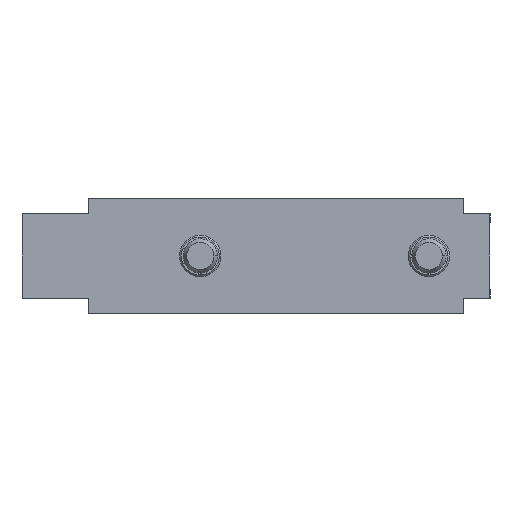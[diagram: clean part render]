
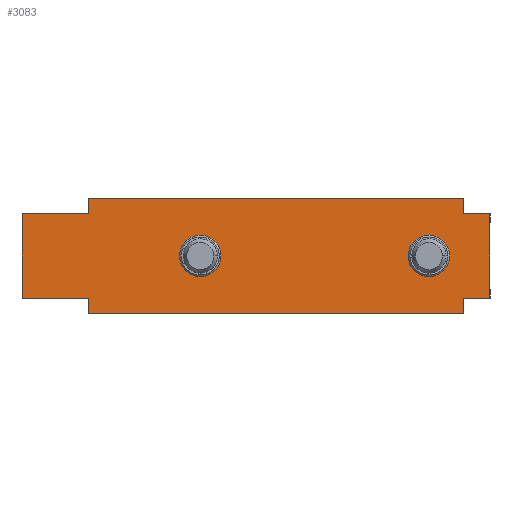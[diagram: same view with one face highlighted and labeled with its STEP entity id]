
A CAD part, left-side view. The second image highlights one B-rep face of the part: STEP entity #3083.
In plain terms, the highlighted planar face has unit normal (-1, 0, 0).
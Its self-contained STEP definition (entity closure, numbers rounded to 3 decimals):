
#25 = ORIENTED_EDGE ( 'NONE', *, *, #502, .T. ) ;
#26 = ORIENTED_EDGE ( 'NONE', *, *, #323, .F. ) ;
#27 = ORIENTED_EDGE ( 'NONE', *, *, #569, .F. ) ;
#33 = ORIENTED_EDGE ( 'NONE', *, *, #531, .F. ) ;
#34 = ORIENTED_EDGE ( 'NONE', *, *, #336, .T. ) ;
#35 = ORIENTED_EDGE ( 'NONE', *, *, #705, .F. ) ;
#36 = ORIENTED_EDGE ( 'NONE', *, *, #447, .F. ) ;
#60 = ORIENTED_EDGE ( 'NONE', *, *, #360, .F. ) ;
#61 = ORIENTED_EDGE ( 'NONE', *, *, #708, .F. ) ;
#62 = ORIENTED_EDGE ( 'NONE', *, *, #528, .F. ) ;
#64 = ORIENTED_EDGE ( 'NONE', *, *, #668, .T. ) ;
#65 = ORIENTED_EDGE ( 'NONE', *, *, #410, .F. ) ;
#66 = ORIENTED_EDGE ( 'NONE', *, *, #529, .F. ) ;
#67 = ORIENTED_EDGE ( 'NONE', *, *, #425, .F. ) ;
#68 = ORIENTED_EDGE ( 'NONE', *, *, #715, .F. ) ;
#77 = ORIENTED_EDGE ( 'NONE', *, *, #306, .F. ) ;
#88 = EDGE_LOOP ( 'NONE', ( #77, #61 ) ) ;
#101 = EDGE_LOOP ( 'NONE', ( #60, #65 ) ) ;
#106 = EDGE_LOOP ( 'NONE', ( #64, #62, #66, #68, #67, #27, #33, #34, #35, #36, #26, #25 ) ) ;
#298 = VERTEX_POINT ( 'NONE', #870 ) ;
#300 = AXIS2_PLACEMENT_3D ( 'NONE', #788, #786, #785 ) ;
#306 = EDGE_CURVE ( 'NONE', #1411, #1414, #2914, .T. ) ;
#317 = AXIS2_PLACEMENT_3D ( 'NONE', #1701, #1641, #1640 ) ;
#323 = EDGE_CURVE ( 'NONE', #1443, #298, #2930, .T. ) ;
#336 = EDGE_CURVE ( 'NONE', #1224, #1391, #2955, .T. ) ;
#360 = EDGE_CURVE ( 'NONE', #1399, #1419, #2998, .T. ) ;
#410 = EDGE_CURVE ( 'NONE', #1419, #1399, #1916, .T. ) ;
#421 = AXIS2_PLACEMENT_3D ( 'NONE', #1335, #1135, #1134 ) ;
#425 = EDGE_CURVE ( 'NONE', #1217, #1203, #1933, .T. ) ;
#447 = EDGE_CURVE ( 'NONE', #298, #1389, #1955, .T. ) ;
#502 = EDGE_CURVE ( 'NONE', #1443, #1459, #2001, .T. ) ;
#528 = EDGE_CURVE ( 'NONE', #1430, #1448, #963, .T. ) ;
#529 = EDGE_CURVE ( 'NONE', #1398, #1430, #975, .T. ) ;
#531 = EDGE_CURVE ( 'NONE', #1224, #1229, #979, .T. ) ;
#569 = EDGE_CURVE ( 'NONE', #1229, #1217, #993, .T. ) ;
#668 = EDGE_CURVE ( 'NONE', #1459, #1448, #1113, .T. ) ;
#678 = AXIS2_PLACEMENT_3D ( 'NONE', #872, #871, #868 ) ;
#700 = AXIS2_PLACEMENT_3D ( 'NONE', #936, #931, #934 ) ;
#705 = EDGE_CURVE ( 'NONE', #1389, #1391, #2408, .T. ) ;
#708 = EDGE_CURVE ( 'NONE', #1414, #1411, #2414, .T. ) ;
#715 = EDGE_CURVE ( 'NONE', #1203, #1398, #2415, .T. ) ;
#746 = CARTESIAN_POINT ( 'NONE',  ( 0.65, -4.9, -8. ) ) ;
#785 = DIRECTION ( 'NONE',  ( 0., 1., 0. ) ) ;
#786 = DIRECTION ( 'NONE',  ( -1., 0., 0. ) ) ;
#788 = CARTESIAN_POINT ( 'NONE',  ( 0.65, 0., 0. ) ) ;
#822 = DIRECTION ( 'NONE',  ( 0., 0., 1. ) ) ;
#841 = DIRECTION ( 'NONE',  ( 0., -1., 0. ) ) ;
#843 = CARTESIAN_POINT ( 'NONE',  ( 0.65, -8.55, 5.9 ) ) ;
#868 = DIRECTION ( 'NONE',  ( 0., 1., 0. ) ) ;
#870 = CARTESIAN_POINT ( 'NONE',  ( 0.65, -8.55, 5.9 ) ) ;
#871 = DIRECTION ( 'NONE',  ( -1., 0., 0. ) ) ;
#872 = CARTESIAN_POINT ( 'NONE',  ( 0.65, 32., 0. ) ) ;
#907 = DIRECTION ( 'NONE',  ( 0., 0., 1. ) ) ;
#920 = CARTESIAN_POINT ( 'NONE',  ( 0.65, -4.9, -8. ) ) ;
#931 = DIRECTION ( 'NONE',  ( -1., 0., 0. ) ) ;
#934 = DIRECTION ( 'NONE',  ( 0., 1., 0. ) ) ;
#936 = CARTESIAN_POINT ( 'NONE',  ( 0.65, 0., 0. ) ) ;
#963 = LINE ( 'NONE', #1790, #974 ) ;
#974 = VECTOR ( 'NONE', #1786, 1000. ) ;
#975 = LINE ( 'NONE', #1756, #976 ) ;
#976 = VECTOR ( 'NONE', #1751, 1000. ) ;
#979 = LINE ( 'NONE', #1773, #980 ) ;
#980 = VECTOR ( 'NONE', #1769, 1000. ) ;
#993 = LINE ( 'NONE', #1844, #1013 ) ;
#1013 = VECTOR ( 'NONE', #1644, 1000. ) ;
#1113 = LINE ( 'NONE', #1715, #1114 ) ;
#1114 = VECTOR ( 'NONE', #1714, 1000. ) ;
#1134 = DIRECTION ( 'NONE',  ( 0., -1., 0. ) ) ;
#1135 = DIRECTION ( 'NONE',  ( 1., 0., 0. ) ) ;
#1152 = PLANE ( 'NONE',  #421 ) ;
#1203 = VERTEX_POINT ( 'NONE', #2339 ) ;
#1217 = VERTEX_POINT ( 'NONE', #2301 ) ;
#1224 = VERTEX_POINT ( 'NONE', #2292 ) ;
#1229 = VERTEX_POINT ( 'NONE', #2295 ) ;
#1335 = CARTESIAN_POINT ( 'NONE',  ( 0.65, 47.6, -8. ) ) ;
#1389 = VERTEX_POINT ( 'NONE', #2200 ) ;
#1391 = VERTEX_POINT ( 'NONE', #2203 ) ;
#1398 = VERTEX_POINT ( 'NONE', #2194 ) ;
#1399 = VERTEX_POINT ( 'NONE', #2187 ) ;
#1411 = VERTEX_POINT ( 'NONE', #2178 ) ;
#1414 = VERTEX_POINT ( 'NONE', #2261 ) ;
#1419 = VERTEX_POINT ( 'NONE', #2131 ) ;
#1430 = VERTEX_POINT ( 'NONE', #2271 ) ;
#1443 = VERTEX_POINT ( 'NONE', #2286 ) ;
#1448 = VERTEX_POINT ( 'NONE', #2284 ) ;
#1459 = VERTEX_POINT ( 'NONE', #2359 ) ;
#1634 = DIRECTION ( 'NONE',  ( 0., 0., 1. ) ) ;
#1635 = CARTESIAN_POINT ( 'NONE',  ( 0.65, 56.95, 5.9 ) ) ;
#1640 = DIRECTION ( 'NONE',  ( 0., 1., 0. ) ) ;
#1641 = DIRECTION ( 'NONE',  ( -1., 0., 0. ) ) ;
#1644 = DIRECTION ( 'NONE',  ( 0., 0., 1. ) ) ;
#1651 = DIRECTION ( 'NONE',  ( 0., 1., 0. ) ) ;
#1652 = CARTESIAN_POINT ( 'NONE',  ( 0.65, -8.55, -5.9 ) ) ;
#1701 = CARTESIAN_POINT ( 'NONE',  ( 0.65, 32., 0. ) ) ;
#1714 = DIRECTION ( 'NONE',  ( 0., 1., 0. ) ) ;
#1715 = CARTESIAN_POINT ( 'NONE',  ( 0.65, 47.6, 8. ) ) ;
#1751 = DIRECTION ( 'NONE',  ( 0., -1., 0. ) ) ;
#1756 = CARTESIAN_POINT ( 'NONE',  ( 0.65, 47.6, 5.9 ) ) ;
#1769 = DIRECTION ( 'NONE',  ( 0., 1., 0. ) ) ;
#1773 = CARTESIAN_POINT ( 'NONE',  ( 0.65, 47.6, -8. ) ) ;
#1786 = DIRECTION ( 'NONE',  ( 0., 0., 1. ) ) ;
#1790 = CARTESIAN_POINT ( 'NONE',  ( 0.65, 47.6, -8. ) ) ;
#1844 = CARTESIAN_POINT ( 'NONE',  ( 0.65, 47.6, -8. ) ) ;
#1916 = CIRCLE ( 'NONE', #700, 2.9 ) ;
#1933 = LINE ( 'NONE', #2693, #1934 ) ;
#1934 = VECTOR ( 'NONE', #2692, 1000. ) ;
#1955 = LINE ( 'NONE', #2656, #1958 ) ;
#1958 = VECTOR ( 'NONE', #2665, 1000. ) ;
#2001 = LINE ( 'NONE', #746, #2016 ) ;
#2016 = VECTOR ( 'NONE', #822, 1000. ) ;
#2131 = CARTESIAN_POINT ( 'NONE',  ( 0.65, -2.9, 0. ) ) ;
#2178 = CARTESIAN_POINT ( 'NONE',  ( 0.65, 34.9, 0. ) ) ;
#2187 = CARTESIAN_POINT ( 'NONE',  ( 0.65, 2.9, 0. ) ) ;
#2194 = CARTESIAN_POINT ( 'NONE',  ( 0.65, 56.95, 5.9 ) ) ;
#2200 = CARTESIAN_POINT ( 'NONE',  ( 0.65, -8.55, -5.9 ) ) ;
#2203 = CARTESIAN_POINT ( 'NONE',  ( 0.65, -4.9, -5.9 ) ) ;
#2261 = CARTESIAN_POINT ( 'NONE',  ( 0.65, 29.1, 0. ) ) ;
#2271 = CARTESIAN_POINT ( 'NONE',  ( 0.65, 47.6, 5.9 ) ) ;
#2284 = CARTESIAN_POINT ( 'NONE',  ( 0.65, 47.6, 8. ) ) ;
#2286 = CARTESIAN_POINT ( 'NONE',  ( 0.65, -4.9, 5.9 ) ) ;
#2292 = CARTESIAN_POINT ( 'NONE',  ( 0.65, -4.9, -8. ) ) ;
#2295 = CARTESIAN_POINT ( 'NONE',  ( 0.65, 47.6, -8. ) ) ;
#2301 = CARTESIAN_POINT ( 'NONE',  ( 0.65, 47.6, -5.9 ) ) ;
#2339 = CARTESIAN_POINT ( 'NONE',  ( 0.65, 56.95, -5.9 ) ) ;
#2359 = CARTESIAN_POINT ( 'NONE',  ( 0.65, -4.9, 8. ) ) ;
#2408 = LINE ( 'NONE', #1652, #2409 ) ;
#2409 = VECTOR ( 'NONE', #1651, 1000. ) ;
#2414 = CIRCLE ( 'NONE', #317, 2.9 ) ;
#2415 = LINE ( 'NONE', #1635, #2416 ) ;
#2416 = VECTOR ( 'NONE', #1634, 1000. ) ;
#2518 = FACE_BOUND ( 'NONE', #88, .T. ) ;
#2519 = FACE_BOUND ( 'NONE', #101, .T. ) ;
#2523 = FACE_OUTER_BOUND ( 'NONE', #106, .T. ) ;
#2656 = CARTESIAN_POINT ( 'NONE',  ( 0.65, -8.55, 5.9 ) ) ;
#2665 = DIRECTION ( 'NONE',  ( 0., 0., -1. ) ) ;
#2692 = DIRECTION ( 'NONE',  ( 0., 1., 0. ) ) ;
#2693 = CARTESIAN_POINT ( 'NONE',  ( 0.65, 47.6, -5.9 ) ) ;
#2914 = CIRCLE ( 'NONE', #678, 2.9 ) ;
#2930 = LINE ( 'NONE', #843, #2934 ) ;
#2934 = VECTOR ( 'NONE', #841, 1000. ) ;
#2955 = LINE ( 'NONE', #920, #2959 ) ;
#2959 = VECTOR ( 'NONE', #907, 1000. ) ;
#2998 = CIRCLE ( 'NONE', #300, 2.9 ) ;
#3083 = ADVANCED_FACE ( 'NONE', ( #2518, #2519, #2523 ), #1152, .F. ) ;
